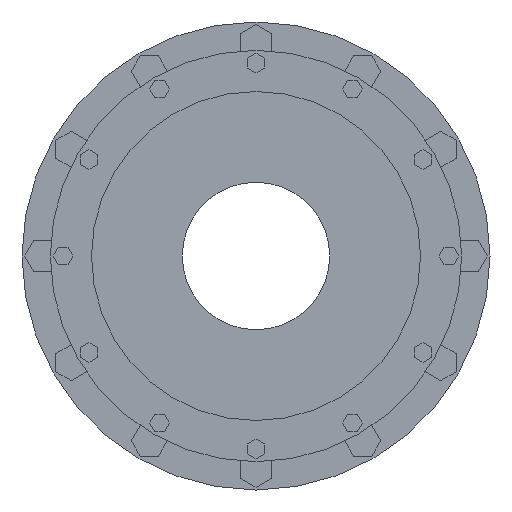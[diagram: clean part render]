
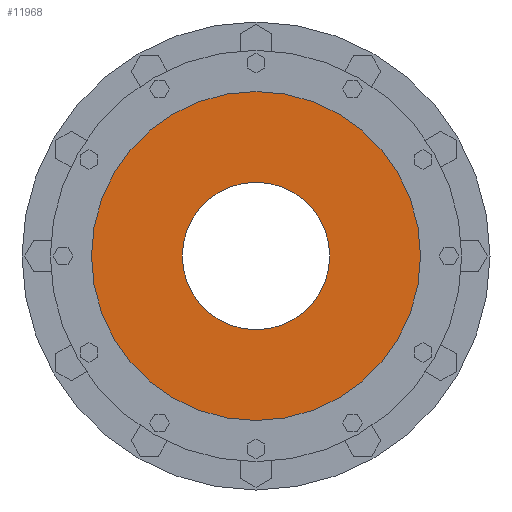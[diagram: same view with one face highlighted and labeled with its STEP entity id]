
A CAD part, left-side view. The second image highlights one B-rep face of the part: STEP entity #11968.
In plain terms, the highlighted planar face has unit normal (-1, 0, 0).
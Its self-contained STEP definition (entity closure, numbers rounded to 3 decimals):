
#11666=CARTESIAN_POINT('',(-412.5,0.,0.));
#11667=DIRECTION('',(1.,0.,0.));
#11668=DIRECTION('',(0.,1.,0.));
#11669=AXIS2_PLACEMENT_3D('',#11666,#11667,#11668);
#11745=CARTESIAN_POINT('',(-412.5,0.,0.));
#11746=DIRECTION('',(-1.,0.,0.));
#11747=DIRECTION('',(0.,1.,0.));
#11748=AXIS2_PLACEMENT_3D('',#11745,#11746,#11747);
#11750=CARTESIAN_POINT('',(-412.5,0.,0.));
#11751=DIRECTION('',(1.,0.,0.));
#11752=DIRECTION('',(0.,1.,0.));
#11753=AXIS2_PLACEMENT_3D('',#11750,#11751,#11752);
#11764=CARTESIAN_POINT('',(-412.5,0.,0.));
#11765=DIRECTION('',(-1.,0.,0.));
#11766=DIRECTION('',(0.,1.,0.));
#11767=AXIS2_PLACEMENT_3D('',#11764,#11765,#11766);
#11773=CARTESIAN_POINT('',(-412.5,130.,0.));
#11774=CARTESIAN_POINT('',(-412.5,-130.,0.));
#11775=VERTEX_POINT('',#11773);
#11776=VERTEX_POINT('',#11774);
#11777=CARTESIAN_POINT('',(-412.5,290.,0.));
#11778=CARTESIAN_POINT('',(-412.5,-290.,0.));
#11779=VERTEX_POINT('',#11777);
#11780=VERTEX_POINT('',#11778);
#11954=CARTESIAN_POINT('',(-412.5,0.,0.));
#11955=DIRECTION('',(1.,0.,0.));
#11956=DIRECTION('',(0.,-1.,0.));
#11957=AXIS2_PLACEMENT_3D('',#11954,#11955,#11956);
#11958=PLANE('',#11957);
#11959=ORIENTED_EDGE('',*,*,#11936,.F.);
#11960=ORIENTED_EDGE('',*,*,#11949,.T.);
#11961=EDGE_LOOP('',(#11959,#11960));
#11962=FACE_OUTER_BOUND('',#11961,.F.);
#11963=ORIENTED_EDGE('',*,*,#11814,.F.);
#11965=ORIENTED_EDGE('',*,*,#11964,.T.);
#11966=EDGE_LOOP('',(#11963,#11965));
#11967=FACE_BOUND('',#11966,.F.);
#11968=ADVANCED_FACE('',(#11962,#11967),#11958,.F.);
#11670=CIRCLE('',#11669,130.);
#11749=CIRCLE('',#11748,290.);
#11754=CIRCLE('',#11753,290.);
#11768=CIRCLE('',#11767,130.);
#11814=EDGE_CURVE('',#11775,#11776,#11670,.T.);
#11936=EDGE_CURVE('',#11779,#11780,#11749,.T.);
#11949=EDGE_CURVE('',#11779,#11780,#11754,.T.);
#11964=EDGE_CURVE('',#11775,#11776,#11768,.T.);
